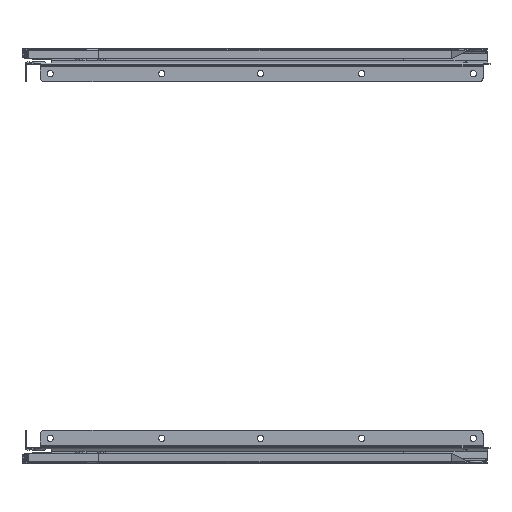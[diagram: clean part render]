
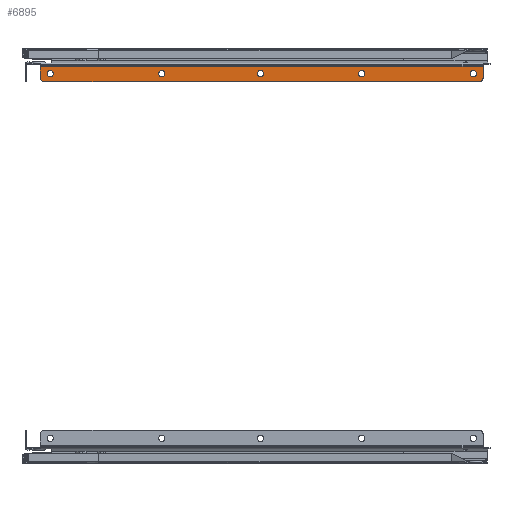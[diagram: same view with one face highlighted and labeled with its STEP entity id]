
A CAD part, front view. The second image highlights one B-rep face of the part: STEP entity #6895.
In plain terms, the highlighted planar face has unit normal (0, -1, 0).
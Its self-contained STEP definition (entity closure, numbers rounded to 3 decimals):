
#287 = ORIENTED_EDGE ( 'NONE', *, *, #2913, .T. ) ;
#405 = CARTESIAN_POINT ( 'NONE',  ( 372.4, -0.7, -6.35 ) ) ;
#630 = VERTEX_POINT ( 'NONE', #5444 ) ;
#730 = FACE_BOUND ( 'NONE', #3500, .T. ) ;
#924 = CARTESIAN_POINT ( 'NONE',  ( 380.8, -0.7, -13. ) ) ;
#1617 = DIRECTION ( 'NONE',  ( 0., 0., 1. ) ) ;
#1767 = LINE ( 'NONE', #9602, #17879 ) ;
#1823 = VERTEX_POINT ( 'NONE', #5725 ) ;
#2160 = AXIS2_PLACEMENT_3D ( 'NONE', #3560, #7268, #18962 ) ;
#2222 = VERTEX_POINT ( 'NONE', #20684 ) ;
#2313 = FACE_BOUND ( 'NONE', #6983, .T. ) ;
#2529 = DIRECTION ( 'NONE',  ( 0., 1., 0. ) ) ;
#2644 = DIRECTION ( 'NONE',  ( -1., 0., 0. ) ) ;
#2796 = ORIENTED_EDGE ( 'NONE', *, *, #15899, .T. ) ;
#2913 = EDGE_CURVE ( 'NONE', #11352, #1823, #24900, .T. ) ;
#3033 = DIRECTION ( 'NONE',  ( 0., 0., 1. ) ) ;
#3279 = AXIS2_PLACEMENT_3D ( 'NONE', #12255, #2529, #3033 ) ;
#3332 = DIRECTION ( 'NONE',  ( 0., 0., 1. ) ) ;
#3421 = EDGE_CURVE ( 'NONE', #17161, #24243, #8516, .T. ) ;
#3500 = EDGE_LOOP ( 'NONE', ( #2796, #12765 ) ) ;
#3504 = ORIENTED_EDGE ( 'NONE', *, *, #4016, .T. ) ;
#3550 = AXIS2_PLACEMENT_3D ( 'NONE', #7984, #9537, #15796 ) ;
#3560 = CARTESIAN_POINT ( 'NONE',  ( 276.4, -0.7, -9.1 ) ) ;
#3616 = EDGE_CURVE ( 'NONE', #21083, #18940, #5969, .T. ) ;
#3743 = VERTEX_POINT ( 'NONE', #23754 ) ;
#4016 = EDGE_CURVE ( 'NONE', #630, #16481, #24472, .T. ) ;
#4406 = VECTOR ( 'NONE', #20042, 1000. ) ;
#4439 = CARTESIAN_POINT ( 'NONE',  ( 189.3, -0.7, -9.1 ) ) ;
#4445 = DIRECTION ( 'NONE',  ( 0., 0., 1. ) ) ;
#4475 = FACE_BOUND ( 'NONE', #6672, .T. ) ;
#4654 = DIRECTION ( 'NONE',  ( 0., 0., -1. ) ) ;
#4734 = VECTOR ( 'NONE', #4654, 1000. ) ;
#5279 = VERTEX_POINT ( 'NONE', #22231 ) ;
#5444 = CARTESIAN_POINT ( 'NONE',  ( 377.8, -0.7, -16. ) ) ;
#5725 = CARTESIAN_POINT ( 'NONE',  ( 8.4, -0.7, -6.35 ) ) ;
#5726 = ORIENTED_EDGE ( 'NONE', *, *, #15751, .F. ) ;
#5826 = CIRCLE ( 'NONE', #11144, 2.75 ) ;
#5850 = VERTEX_POINT ( 'NONE', #14988 ) ;
#5969 = CIRCLE ( 'NONE', #14156, 2.75 ) ;
#6171 = VERTEX_POINT ( 'NONE', #8307 ) ;
#6203 = EDGE_CURVE ( 'NONE', #2222, #15269, #9022, .T. ) ;
#6278 = FACE_BOUND ( 'NONE', #16397, .T. ) ;
#6672 = EDGE_LOOP ( 'NONE', ( #14655, #15744 ) ) ;
#6895 = ADVANCED_FACE ( 'NONE', ( #730, #8595, #2313, #4475, #6278, #16277 ), #16406, .F. ) ;
#6983 = EDGE_LOOP ( 'NONE', ( #16025, #12294 ) ) ;
#7111 = AXIS2_PLACEMENT_3D ( 'NONE', #8957, #14846, #1617 ) ;
#7268 = DIRECTION ( 'NONE',  ( 0., 1., 0. ) ) ;
#7370 = EDGE_CURVE ( 'NONE', #18940, #21083, #11501, .T. ) ;
#7602 = CARTESIAN_POINT ( 'NONE',  ( 104.4, -0.7, -6.35 ) ) ;
#7648 = CIRCLE ( 'NONE', #24475, 2.75 ) ;
#7723 = VECTOR ( 'NONE', #2644, 1000. ) ;
#7749 = CARTESIAN_POINT ( 'NONE',  ( 276.4, -0.7, -9.1 ) ) ;
#7984 = CARTESIAN_POINT ( 'NONE',  ( 377.8, -0.7, -13. ) ) ;
#8096 = CARTESIAN_POINT ( 'NONE',  ( 0., -0.7, -13. ) ) ;
#8307 = CARTESIAN_POINT ( 'NONE',  ( 189.3, -0.7, -6.35 ) ) ;
#8363 = CARTESIAN_POINT ( 'NONE',  ( 189.3, -0.7, -9.1 ) ) ;
#8392 = CARTESIAN_POINT ( 'NONE',  ( 0., -0.7, -3.324 ) ) ;
#8516 = LINE ( 'NONE', #8392, #4734 ) ;
#8595 = FACE_BOUND ( 'NONE', #12865, .T. ) ;
#8957 = CARTESIAN_POINT ( 'NONE',  ( 3., -0.7, -13. ) ) ;
#9022 = CIRCLE ( 'NONE', #3279, 2.75 ) ;
#9167 = CARTESIAN_POINT ( 'NONE',  ( 372.4, -0.7, -9.1 ) ) ;
#9250 = VERTEX_POINT ( 'NONE', #14668 ) ;
#9537 = DIRECTION ( 'NONE',  ( 0., -1., 0. ) ) ;
#9558 = EDGE_CURVE ( 'NONE', #15269, #2222, #5826, .T. ) ;
#9597 = DIRECTION ( 'NONE',  ( 0., 1., 0. ) ) ;
#9602 = CARTESIAN_POINT ( 'NONE',  ( 380.8, -0.7, -3.324 ) ) ;
#9718 = CARTESIAN_POINT ( 'NONE',  ( 8.4, -0.7, -9.1 ) ) ;
#10377 = AXIS2_PLACEMENT_3D ( 'NONE', #7749, #19314, #17769 ) ;
#10529 = ORIENTED_EDGE ( 'NONE', *, *, #7370, .T. ) ;
#10724 = CIRCLE ( 'NONE', #2160, 2.75 ) ;
#10862 = CIRCLE ( 'NONE', #12104, 2.75 ) ;
#11028 = EDGE_CURVE ( 'NONE', #630, #9250, #14223, .T. ) ;
#11144 = AXIS2_PLACEMENT_3D ( 'NONE', #24045, #15927, #18889 ) ;
#11352 = VERTEX_POINT ( 'NONE', #13448 ) ;
#11501 = CIRCLE ( 'NONE', #16844, 2.75 ) ;
#11889 = AXIS2_PLACEMENT_3D ( 'NONE', #18089, #22077, #20288 ) ;
#12104 = AXIS2_PLACEMENT_3D ( 'NONE', #8363, #16178, #17044 ) ;
#12137 = AXIS2_PLACEMENT_3D ( 'NONE', #9718, #9597, #15856 ) ;
#12253 = DIRECTION ( 'NONE',  ( 0., 1., 0. ) ) ;
#12255 = CARTESIAN_POINT ( 'NONE',  ( 104.4, -0.7, -9.1 ) ) ;
#12294 = ORIENTED_EDGE ( 'NONE', *, *, #6203, .T. ) ;
#12765 = ORIENTED_EDGE ( 'NONE', *, *, #15531, .T. ) ;
#12865 = EDGE_LOOP ( 'NONE', ( #15951, #287 ) ) ;
#12896 = EDGE_CURVE ( 'NONE', #1823, #11352, #14417, .T. ) ;
#12926 = ORIENTED_EDGE ( 'NONE', *, *, #3616, .T. ) ;
#13267 = EDGE_CURVE ( 'NONE', #5279, #5850, #10724, .T. ) ;
#13447 = DIRECTION ( 'NONE',  ( 0., 1., 0. ) ) ;
#13448 = CARTESIAN_POINT ( 'NONE',  ( 8.4, -0.7, -11.85 ) ) ;
#14156 = AXIS2_PLACEMENT_3D ( 'NONE', #9167, #16979, #21444 ) ;
#14184 = CARTESIAN_POINT ( 'NONE',  ( 372.4, -0.7, -9.1 ) ) ;
#14223 = LINE ( 'NONE', #17735, #4406 ) ;
#14338 = CARTESIAN_POINT ( 'NONE',  ( 0., -0.7, -3.324 ) ) ;
#14356 = EDGE_CURVE ( 'NONE', #24243, #9250, #17352, .T. ) ;
#14417 = CIRCLE ( 'NONE', #21809, 2.75 ) ;
#14655 = ORIENTED_EDGE ( 'NONE', *, *, #14955, .T. ) ;
#14668 = CARTESIAN_POINT ( 'NONE',  ( 3., -0.7, -16. ) ) ;
#14826 = VERTEX_POINT ( 'NONE', #17252 ) ;
#14846 = DIRECTION ( 'NONE',  ( 0., -1., 0. ) ) ;
#14955 = EDGE_CURVE ( 'NONE', #5850, #5279, #21483, .T. ) ;
#14988 = CARTESIAN_POINT ( 'NONE',  ( 276.4, -0.7, -6.35 ) ) ;
#15269 = VERTEX_POINT ( 'NONE', #7602 ) ;
#15366 = DIRECTION ( 'NONE',  ( 0., 0., -1. ) ) ;
#15531 = EDGE_CURVE ( 'NONE', #14826, #6171, #10862, .T. ) ;
#15744 = ORIENTED_EDGE ( 'NONE', *, *, #13267, .T. ) ;
#15751 = EDGE_CURVE ( 'NONE', #3743, #16481, #1767, .T. ) ;
#15796 = DIRECTION ( 'NONE',  ( 0., 0., 1. ) ) ;
#15856 = DIRECTION ( 'NONE',  ( 0., 0., 1. ) ) ;
#15899 = EDGE_CURVE ( 'NONE', #6171, #14826, #7648, .T. ) ;
#15927 = DIRECTION ( 'NONE',  ( 0., 1., 0. ) ) ;
#15951 = ORIENTED_EDGE ( 'NONE', *, *, #12896, .T. ) ;
#16025 = ORIENTED_EDGE ( 'NONE', *, *, #9558, .T. ) ;
#16178 = DIRECTION ( 'NONE',  ( 0., 1., 0. ) ) ;
#16277 = FACE_OUTER_BOUND ( 'NONE', #24566, .T. ) ;
#16397 = EDGE_LOOP ( 'NONE', ( #12926, #10529 ) ) ;
#16406 = PLANE ( 'NONE',  #11889 ) ;
#16481 = VERTEX_POINT ( 'NONE', #924 ) ;
#16523 = ORIENTED_EDGE ( 'NONE', *, *, #11028, .F. ) ;
#16844 = AXIS2_PLACEMENT_3D ( 'NONE', #14184, #22043, #4445 ) ;
#16979 = DIRECTION ( 'NONE',  ( 0., 1., 0. ) ) ;
#17044 = DIRECTION ( 'NONE',  ( 0., 0., 1. ) ) ;
#17161 = VERTEX_POINT ( 'NONE', #14338 ) ;
#17252 = CARTESIAN_POINT ( 'NONE',  ( 189.3, -0.7, -11.85 ) ) ;
#17352 = CIRCLE ( 'NONE', #7111, 3. ) ;
#17735 = CARTESIAN_POINT ( 'NONE',  ( 380.8, -0.7, -16. ) ) ;
#17769 = DIRECTION ( 'NONE',  ( 0., 0., 1. ) ) ;
#17879 = VECTOR ( 'NONE', #15366, 1000. ) ;
#18089 = CARTESIAN_POINT ( 'NONE',  ( 380.8, -0.7, -3.324 ) ) ;
#18296 = CARTESIAN_POINT ( 'NONE',  ( 380.8, -0.7, -3.324 ) ) ;
#18889 = DIRECTION ( 'NONE',  ( 0., 0., 1. ) ) ;
#18940 = VERTEX_POINT ( 'NONE', #20216 ) ;
#18962 = DIRECTION ( 'NONE',  ( 0., 0., 1. ) ) ;
#19314 = DIRECTION ( 'NONE',  ( 0., 1., 0. ) ) ;
#19532 = ORIENTED_EDGE ( 'NONE', *, *, #3421, .T. ) ;
#20042 = DIRECTION ( 'NONE',  ( -1., 0., 0. ) ) ;
#20124 = DIRECTION ( 'NONE',  ( 0., 0., 1. ) ) ;
#20216 = CARTESIAN_POINT ( 'NONE',  ( 372.4, -0.7, -11.85 ) ) ;
#20288 = DIRECTION ( 'NONE',  ( 0., 0., 1. ) ) ;
#20526 = EDGE_CURVE ( 'NONE', #3743, #17161, #24356, .T. ) ;
#20684 = CARTESIAN_POINT ( 'NONE',  ( 104.4, -0.7, -11.85 ) ) ;
#21083 = VERTEX_POINT ( 'NONE', #405 ) ;
#21444 = DIRECTION ( 'NONE',  ( 0., 0., 1. ) ) ;
#21483 = CIRCLE ( 'NONE', #10377, 2.75 ) ;
#21809 = AXIS2_PLACEMENT_3D ( 'NONE', #25176, #13447, #3332 ) ;
#22043 = DIRECTION ( 'NONE',  ( 0., 1., 0. ) ) ;
#22077 = DIRECTION ( 'NONE',  ( 0., 1., 0. ) ) ;
#22231 = CARTESIAN_POINT ( 'NONE',  ( 276.4, -0.7, -11.85 ) ) ;
#22574 = ORIENTED_EDGE ( 'NONE', *, *, #20526, .T. ) ;
#22884 = ORIENTED_EDGE ( 'NONE', *, *, #14356, .T. ) ;
#23754 = CARTESIAN_POINT ( 'NONE',  ( 380.8, -0.7, -3.324 ) ) ;
#24045 = CARTESIAN_POINT ( 'NONE',  ( 104.4, -0.7, -9.1 ) ) ;
#24243 = VERTEX_POINT ( 'NONE', #8096 ) ;
#24356 = LINE ( 'NONE', #18296, #7723 ) ;
#24472 = CIRCLE ( 'NONE', #3550, 3. ) ;
#24475 = AXIS2_PLACEMENT_3D ( 'NONE', #4439, #12253, #20124 ) ;
#24566 = EDGE_LOOP ( 'NONE', ( #19532, #22884, #16523, #3504, #5726, #22574 ) ) ;
#24900 = CIRCLE ( 'NONE', #12137, 2.75 ) ;
#25176 = CARTESIAN_POINT ( 'NONE',  ( 8.4, -0.7, -9.1 ) ) ;
